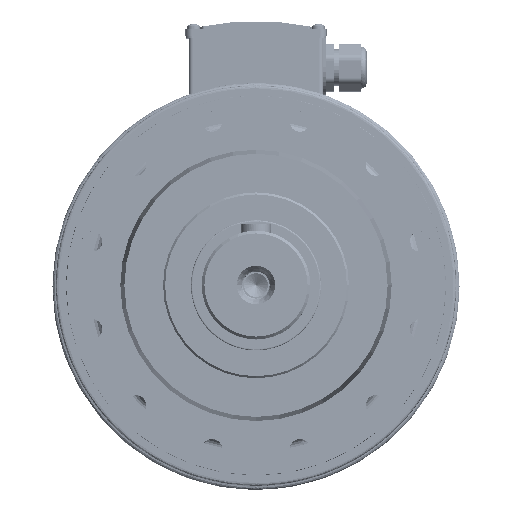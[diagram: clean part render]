
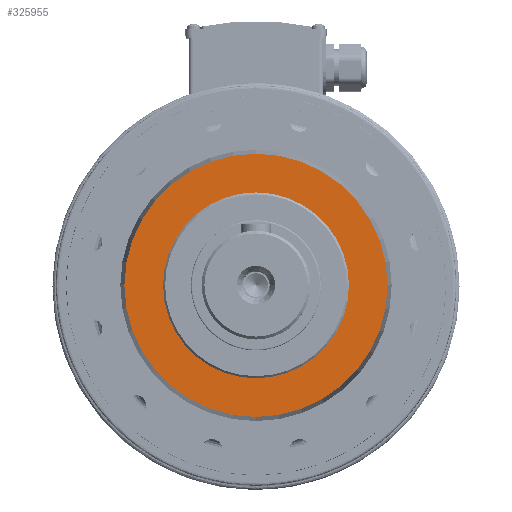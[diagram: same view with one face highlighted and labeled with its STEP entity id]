
A CAD part, top view. The second image highlights one B-rep face of the part: STEP entity #325955.
In plain terms, the highlighted planar face has unit normal (0, 0, 1).
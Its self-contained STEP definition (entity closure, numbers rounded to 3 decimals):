
#32020 = EDGE_LOOP ( 'NONE', ( #74205, #74111 ) ) ;
#32026 = EDGE_LOOP ( 'NONE', ( #74162, #74189 ) ) ;
#65851 = VERTEX_POINT ( 'NONE', #342410 ) ;
#65873 = VERTEX_POINT ( 'NONE', #342446 ) ;
#65883 = VERTEX_POINT ( 'NONE', #342455 ) ;
#65955 = VERTEX_POINT ( 'NONE', #342565 ) ;
#74111 = ORIENTED_EDGE ( 'NONE', *, *, #181840, .F. ) ;
#74162 = ORIENTED_EDGE ( 'NONE', *, *, #181923, .F. ) ;
#74189 = ORIENTED_EDGE ( 'NONE', *, *, #181848, .F. ) ;
#74205 = ORIENTED_EDGE ( 'NONE', *, *, #181834, .F. ) ;
#163461 = CIRCLE ( 'NONE', #365546, 68.5 ) ;
#163477 = CIRCLE ( 'NONE', #365491, 97. ) ;
#163516 = CIRCLE ( 'NONE', #365538, 68.5 ) ;
#163711 = CIRCLE ( 'NONE', #365794, 97. ) ;
#181834 = EDGE_CURVE ( 'NONE', #65873, #65883, #163516, .T. ) ;
#181840 = EDGE_CURVE ( 'NONE', #65883, #65873, #163461, .T. ) ;
#181848 = EDGE_CURVE ( 'NONE', #65851, #65955, #163477, .T. ) ;
#181923 = EDGE_CURVE ( 'NONE', #65955, #65851, #163711, .T. ) ;
#239985 = DIRECTION ( 'NONE',  ( 0., 0., 1. ) ) ;
#240001 = CARTESIAN_POINT ( 'NONE',  ( 0., 0., 147. ) ) ;
#240233 = DIRECTION ( 'NONE',  ( -1., 0., 0. ) ) ;
#240241 = DIRECTION ( 'NONE',  ( 0., 0., 1. ) ) ;
#240249 = DIRECTION ( 'NONE',  ( -1., 0., 0. ) ) ;
#240269 = CARTESIAN_POINT ( 'NONE',  ( 0., 0., 147. ) ) ;
#240458 = CARTESIAN_POINT ( 'NONE',  ( 0., 0., 147. ) ) ;
#240678 = DIRECTION ( 'NONE',  ( 0., 1., 0. ) ) ;
#240759 = DIRECTION ( 'NONE',  ( 0., 0., -1. ) ) ;
#243009 = DIRECTION ( 'NONE',  ( 0., 0., -1. ) ) ;
#243079 = CARTESIAN_POINT ( 'NONE',  ( 0., 0., 147. ) ) ;
#243254 = DIRECTION ( 'NONE',  ( 0., 1., 0. ) ) ;
#267667 = DIRECTION ( 'NONE',  ( 0., 0., -1. ) ) ;
#267759 = DIRECTION ( 'NONE',  ( 0., 1., 0. ) ) ;
#267883 = CARTESIAN_POINT ( 'NONE',  ( 0., 97., 147. ) ) ;
#268000 = PLANE ( 'NONE',  #317692 ) ;
#273749 = FACE_BOUND ( 'NONE', #32020, .T. ) ;
#273867 = FACE_OUTER_BOUND ( 'NONE', #32026, .T. ) ;
#317692 = AXIS2_PLACEMENT_3D ( 'NONE', #267883, #267667, #267759 ) ;
#325955 = ADVANCED_FACE ( 'NONE', ( #273749, #273867 ), #268000, .F. ) ;
#342410 = CARTESIAN_POINT ( 'NONE',  ( 0., -97., 147. ) ) ;
#342446 = CARTESIAN_POINT ( 'NONE',  ( -68.5, 0., 147. ) ) ;
#342455 = CARTESIAN_POINT ( 'NONE',  ( 68.5, 0., 147. ) ) ;
#342565 = CARTESIAN_POINT ( 'NONE',  ( 0., 97., 147. ) ) ;
#365491 = AXIS2_PLACEMENT_3D ( 'NONE', #240458, #240759, #240678 ) ;
#365538 = AXIS2_PLACEMENT_3D ( 'NONE', #240269, #240241, #240233 ) ;
#365546 = AXIS2_PLACEMENT_3D ( 'NONE', #240001, #239985, #240249 ) ;
#365794 = AXIS2_PLACEMENT_3D ( 'NONE', #243079, #243009, #243254 ) ;
